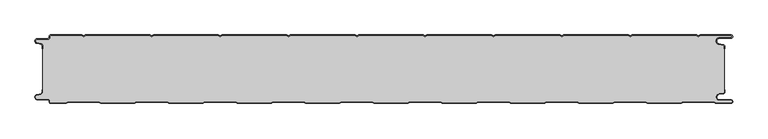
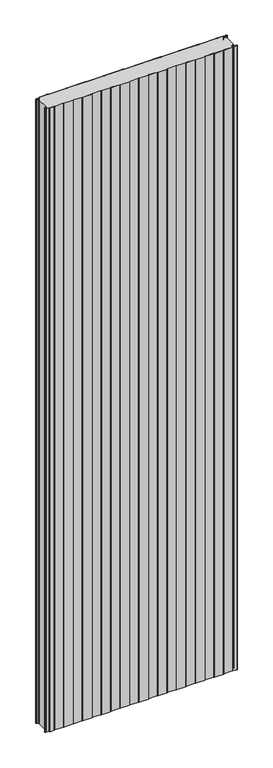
"""IFC4 building model written with IfcOpenShell, lengths in millimetres: plate geometry, PMH_Curtain-PaneL-Standard : ACH_PMH_Stone-wool-Panel_100M."""

from ifc_helpers import new_model, si_unit, point, frame_2d, origin, origin_with_axes, place, context, project, spatial, polyline, circle_curve, trimmed, segment, composite_curve, outline, extrude, source, transform, mapped, element, save


def plate_00faa93f(model_context):
    return source(origin(), model_context, "Body", "SweptSolid", [
        extrude(outline(composite_curve([segment(trimmed(circle_curve(frame_2d((-502.0, -15.878557)), 2.0), [point((-500.0, -15.878557))], [point((-501.5500978, -13.9298169))], True, "CARTESIAN"), True, "CONTINUOUS"), segment(polyline([(-501.5500978, -13.9298169), (-507.7098239, -12.507732)]), True, "CONTINUOUS"), segment(trimmed(circle_curve(frame_2d((-506.9, -9.0)), 3.6), [point((-507.7098239, -12.507732))], [point((-506.9, -5.4))], False, "CARTESIAN"), True, "CONTINUOUS"), segment(polyline([(-506.9, -5.4), (-491.4, -5.4)]), True, "CONTINUOUS"), segment(trimmed(circle_curve(frame_2d((-491.4, -3.4)), 2.0), [point((-491.4, -5.4))], [point((-489.4, -3.4))], True, "CARTESIAN"), True, "CONTINUOUS"), segment(polyline([(-489.4, -3.4), (-489.4, -2.0)]), True, "CONTINUOUS"), segment(trimmed(circle_curve(frame_2d((-487.4, -2.0)), 2.0), [point((-489.4, -2.0))], [point((-487.4, 0.0))], False, "CARTESIAN"), True, "CONTINUOUS"), segment(polyline([(-487.4, 0.0), (-442.0999995, 0.0), (-439.4, -1.5588455), (-436.7000005, 0.0), (-342.0999995, 0.0), (-339.4, -1.5588455), (-336.7000005, 0.0), (-242.0999995, 0.0), (-239.4, -1.5588455), (-236.7000005, 0.0), (-142.0999995, 0.0), (-139.4, -1.5588455), (-136.7000005, 0.0), (-42.0999995, 0.0), (-39.4, -1.5588455), (-36.7000005, 0.0), (57.9000005, 0.0), (60.6, -1.5588455), (63.2999995, 0.0), (157.9000005, 0.0), (160.6, -1.5588455), (163.2999995, 0.0), (257.9000005, 0.0), (260.6, -1.5588455), (263.2999995, 0.0), (357.9000005, 0.0), (360.6, -1.5588455), (363.2999995, 0.0), (457.9000005, 0.0), (460.6, -1.5588455), (463.2999995, 0.0), (508.1, 0.0)]), True, "CONTINUOUS"), segment(trimmed(circle_curve(frame_2d((508.1, -2.5)), 2.5), [point((508.1, 0.0))], [point((508.1, -5.0))], False, "CARTESIAN"), True, "CONTINUOUS"), segment(polyline([(508.1, -5.0), (491.1, -5.0)]), True, "CONTINUOUS"), segment(trimmed(circle_curve(frame_2d((491.1, -9.0)), 4.0), [point((491.1, -5.0))], [point((490.405407, -12.939231))], True, "CARTESIAN"), True, "CONTINUOUS"), segment(polyline([(490.405407, -12.939231), (496.8514855, -14.0758491)]), True, "CONTINUOUS"), segment(trimmed(circle_curve(frame_2d((496.4, -16.6363492)), 2.6), [point((496.8514855, -14.0758491))], [point((499.0, -16.6363492))], False, "CARTESIAN"), True, "CONTINUOUS"), segment(polyline([(499.0, -16.6363492), (499.0, -20.0), (498.2, -20.0), (498.2, -16.6363492)]), True, "CONTINUOUS"), segment(trimmed(circle_curve(frame_2d((496.4, -16.6363492)), 1.8), [point((498.2, -16.6363492))], [point((496.7125669, -14.8636953))], True, "CARTESIAN"), True, "CONTINUOUS"), segment(polyline([(496.7125669, -14.8636953), (490.2664884, -13.7270772)]), True, "CONTINUOUS"), segment(trimmed(circle_curve(frame_2d((491.1, -9.0)), 4.8), [point((490.2664884, -13.7270772))], [point((491.1, -4.2))], False, "CARTESIAN"), True, "CONTINUOUS"), segment(polyline([(491.1, -4.2), (508.1, -4.2)]), True, "CONTINUOUS"), segment(trimmed(circle_curve(frame_2d((508.1, -2.5)), 1.7), [point((508.1, -4.2))], [point((508.1, -0.8))], True, "CARTESIAN"), True, "CONTINUOUS"), segment(polyline([(508.1, -0.8), (463.5143588, -0.8), (460.6, -2.482606), (457.6856412, -0.8), (363.5143588, -0.8), (360.6, -2.482606), (357.6856412, -0.8), (263.5143588, -0.8), (260.6, -2.482606), (257.6856412, -0.8), (163.5143588, -0.8), (160.6, -2.482606), (157.6856412, -0.8), (63.5143588, -0.8), (60.6, -2.482606), (57.6856412, -0.8), (-36.4856412, -0.8), (-39.4, -2.482606), (-42.3143588, -0.8), (-136.4856412, -0.8), (-139.4, -2.482606), (-142.3143588, -0.8), (-236.4856412, -0.8), (-239.4, -2.482606), (-242.3143588, -0.8), (-336.4856412, -0.8), (-339.4, -2.482606), (-342.3143588, -0.8), (-436.4856412, -0.8), (-439.4, -2.482606), (-442.3143588, -0.8), (-487.4, -0.8)]), True, "CONTINUOUS"), segment(trimmed(circle_curve(frame_2d((-487.4, -2.0)), 1.2), [point((-487.4, -0.8))], [point((-488.6, -2.0))], True, "CARTESIAN"), True, "CONTINUOUS"), segment(polyline([(-488.6, -2.0), (-488.6, -3.4)]), True, "CONTINUOUS"), segment(trimmed(circle_curve(frame_2d((-491.4, -3.4)), 2.8), [point((-488.6, -3.4))], [point((-491.4, -6.2))], False, "CARTESIAN"), True, "CONTINUOUS"), segment(polyline([(-491.4, -6.2), (-506.9, -6.2)]), True, "CONTINUOUS"), segment(trimmed(circle_curve(frame_2d((-506.9, -9.0)), 2.8), [point((-506.9, -6.2))], [point((-507.529863, -11.7282362))], True, "CARTESIAN"), True, "CONTINUOUS"), segment(polyline([(-507.529863, -11.7282362), (-501.370137, -13.150321)]), True, "CONTINUOUS"), segment(trimmed(circle_curve(frame_2d((-502.0, -15.878557)), 2.8), [point((-501.370137, -13.150321))], [point((-499.2, -15.878557))], False, "CARTESIAN"), True, "CONTINUOUS"), segment(polyline([(-499.2, -15.878557), (-499.2, -20.0), (-500.0, -20.0), (-500.0, -15.878557)]), True, "CONTINUOUS")], self_intersect=False)), origin_with_axes(), (0.0, 0.0, 1.0), 3500.0),
        extrude(outline(composite_curve([segment(polyline([(-499.2, -84.121443), (-499.2, -15.8785573)]), True, "CONTINUOUS"), segment(trimmed(circle_curve(frame_2d((-502.0, -15.8785573)), 2.8), [point((-499.2, -15.8785573))], [point((-501.370137, -13.1503212))], True, "CARTESIAN"), True, "CONTINUOUS"), segment(polyline([(-501.370137, -13.1503212), (-507.5298631, -11.7282362)]), True, "CONTINUOUS"), segment(trimmed(circle_curve(frame_2d((-506.9, -9.0)), 2.8), [point((-507.5298631, -11.7282362))], [point((-506.9, -6.2))], False, "CARTESIAN"), True, "CONTINUOUS"), segment(polyline([(-506.9, -6.2), (-491.4000001, -6.2)]), True, "CONTINUOUS"), segment(trimmed(circle_curve(frame_2d((-491.4000001, -3.4)), 2.8), [point((-491.4000001, -6.2))], [point((-488.6000001, -3.4))], True, "CARTESIAN"), True, "CONTINUOUS"), segment(polyline([(-488.6000001, -3.4), (-488.6000001, -2.0)]), True, "CONTINUOUS"), segment(trimmed(circle_curve(frame_2d((-487.4000001, -2.0)), 1.2), [point((-488.6000001, -2.0))], [point((-487.4000001, -0.8))], False, "CARTESIAN"), True, "CONTINUOUS"), segment(polyline([(-487.4000001, -0.8), (-442.3143589, -0.8), (-439.4000001, -2.482606), (-436.4856412, -0.8), (-342.3143589, -0.8), (-339.4000001, -2.482606), (-336.4856412, -0.8), (-242.3143589, -0.8), (-239.4000001, -2.482606), (-236.4856412, -0.8), (-142.3143589, -0.8), (-139.4000001, -2.482606), (-136.4856412, -0.8), (-42.3143589, -0.8), (-39.4000001, -2.482606), (-36.4856412, -0.8), (57.6856411, -0.8), (60.5999999, -2.482606), (63.5143588, -0.8), (157.6856411, -0.8), (160.5999999, -2.482606), (163.5143588, -0.8), (257.6856411, -0.8), (260.5999999, -2.482606), (263.5143588, -0.8), (357.6856411, -0.8), (360.5999999, -2.482606), (363.5143588, -0.8), (457.6856411, -0.8), (460.5999999, -2.482606), (463.5143587, -0.8), (508.1, -0.8)]), True, "CONTINUOUS"), segment(trimmed(circle_curve(frame_2d((508.1, -2.5)), 1.7), [point((508.1, -0.8))], [point((508.1, -4.2))], False, "CARTESIAN"), True, "CONTINUOUS"), segment(polyline([(508.1, -4.2), (491.1, -4.2)]), True, "CONTINUOUS"), segment(trimmed(circle_curve(frame_2d((491.1, -9.0)), 4.8), [point((491.1, -4.2))], [point((490.2664883, -13.7270771))], True, "CARTESIAN"), True, "CONTINUOUS"), segment(polyline([(490.2664883, -13.7270771), (496.7125668, -14.8636953)]), True, "CONTINUOUS"), segment(trimmed(circle_curve(frame_2d((496.4, -16.6363492)), 1.8), [point((496.7125668, -14.8636953))], [point((498.2, -16.6363492))], False, "CARTESIAN"), True, "CONTINUOUS"), segment(polyline([(498.2, -16.6363492), (498.2, -83.363652)]), True, "CONTINUOUS"), segment(trimmed(circle_curve(frame_2d((496.4, -83.363652)), 1.8), [point((498.2, -83.363652))], [point((496.7125666, -85.1363059))], False, "CARTESIAN"), True, "CONTINUOUS"), segment(polyline([(496.7125666, -85.1363059), (490.266489, -86.272923)]), True, "CONTINUOUS"), segment(trimmed(circle_curve(frame_2d((491.1, -91.0000002)), 4.7999999), [point((490.266489, -86.272923))], [point((491.1, -95.8000001))], True, "CARTESIAN"), True, "CONTINUOUS"), segment(polyline([(491.1, -95.8000001), (508.1, -95.8000001)]), True, "CONTINUOUS"), segment(trimmed(circle_curve(frame_2d((508.1, -97.5)), 1.7), [point((508.1, -95.8000001))], [point((508.1, -99.2))], False, "CARTESIAN"), True, "CONTINUOUS"), segment(polyline([(508.1, -99.2), (485.8105122, -99.2), (483.2124346, -97.7), (437.9837184, -97.7), (435.3856408, -99.2), (385.8105122, -99.2), (383.2124346, -97.7), (337.9837184, -97.7), (335.3856408, -99.2), (285.8105122, -99.2), (283.2124346, -97.7), (237.9837184, -97.7), (235.3856408, -99.2), (185.8105122, -99.2), (183.2124346, -97.7), (137.9837184, -97.7), (135.3856408, -99.2), (85.8105122, -99.2), (83.2124346, -97.7), (37.9837184, -97.7), (35.3856408, -99.2), (-14.1894878, -99.2), (-16.7875654, -97.7), (-62.0162816, -97.7), (-64.6143592, -99.2), (-114.1894878, -99.2), (-116.7875654, -97.7), (-162.0162816, -97.7), (-164.6143592, -99.2), (-214.1894878, -99.2), (-216.7875654, -97.7), (-262.0162816, -97.7), (-264.6143592, -99.2), (-314.1894878, -99.2), (-316.7875654, -97.7), (-362.0162816, -97.7), (-364.6143592, -99.2), (-414.1894878, -99.2), (-416.7875654, -97.7), (-462.0162816, -97.7), (-464.6143592, -99.2), (-487.4, -99.2)]), True, "CONTINUOUS"), segment(trimmed(circle_curve(frame_2d((-487.4, -98.0)), 1.2), [point((-487.4, -99.2))], [point((-488.6, -98.0))], False, "CARTESIAN"), True, "CONTINUOUS"), segment(polyline([(-488.6, -98.0), (-488.6, -96.5999998)]), True, "CONTINUOUS"), segment(trimmed(circle_curve(frame_2d((-491.4, -96.5999998)), 2.8), [point((-488.6, -96.5999998))], [point((-491.4, -93.7999998))], True, "CARTESIAN"), True, "CONTINUOUS"), segment(polyline([(-491.4, -93.7999998), (-506.9, -93.7999998)]), True, "CONTINUOUS"), segment(trimmed(circle_curve(frame_2d((-506.9, -91.0)), 2.7999998), [point((-506.9, -93.7999998))], [point((-507.529863, -88.271764))], False, "CARTESIAN"), True, "CONTINUOUS"), segment(polyline([(-507.529863, -88.271764), (-501.370137, -86.8496792)]), True, "CONTINUOUS"), segment(trimmed(circle_curve(frame_2d((-502.0, -84.121443)), 2.8), [point((-501.370137, -86.8496792))], [point((-499.2, -84.121443))], True, "CARTESIAN"), True, "CONTINUOUS")], self_intersect=False)), origin_with_axes(), (0.0, 0.0, 1.0), 3500.0),
        extrude(outline(composite_curve([segment(trimmed(circle_curve(frame_2d((-487.4, -98.0)), 2.0), [point((-487.4, -100.0))], [point((-489.4, -98.0))], False, "CARTESIAN"), True, "CONTINUOUS"), segment(polyline([(-489.4, -98.0), (-489.4, -96.6)]), True, "CONTINUOUS"), segment(trimmed(circle_curve(frame_2d((-491.4, -96.6)), 2.0), [point((-489.4, -96.6))], [point((-491.4, -94.6))], True, "CARTESIAN"), True, "CONTINUOUS"), segment(polyline([(-491.4, -94.6), (-506.9, -94.6)]), True, "CONTINUOUS"), segment(trimmed(circle_curve(frame_2d((-506.9, -91.0)), 3.6), [point((-506.9, -94.6))], [point((-507.7098239, -87.4922678))], False, "CARTESIAN"), True, "CONTINUOUS"), segment(polyline([(-507.7098239, -87.4922678), (-501.5500979, -86.070183)]), True, "CONTINUOUS"), segment(trimmed(circle_curve(frame_2d((-502.0, -84.121443)), 2.0), [point((-501.5500979, -86.070183))], [point((-500.0, -84.121443))], True, "CARTESIAN"), True, "CONTINUOUS"), segment(polyline([(-500.0, -84.121443), (-500.0, -80.0), (-499.2, -80.0), (-499.2, -84.121443)]), True, "CONTINUOUS"), segment(trimmed(circle_curve(frame_2d((-502.0, -84.121443)), 2.8), [point((-499.2, -84.121443))], [point((-501.370137, -86.8496792))], False, "CARTESIAN"), True, "CONTINUOUS"), segment(polyline([(-501.370137, -86.8496792), (-507.529863, -88.271764)]), True, "CONTINUOUS"), segment(trimmed(circle_curve(frame_2d((-506.9, -91.0)), 2.8), [point((-507.529863, -88.271764))], [point((-506.9, -93.8))], True, "CARTESIAN"), True, "CONTINUOUS"), segment(polyline([(-506.9, -93.8), (-491.4, -93.8)]), True, "CONTINUOUS"), segment(trimmed(circle_curve(frame_2d((-491.4, -96.6)), 2.8), [point((-491.4, -93.8))], [point((-488.6, -96.6))], False, "CARTESIAN"), True, "CONTINUOUS"), segment(polyline([(-488.6, -96.6), (-488.6, -98.0)]), True, "CONTINUOUS"), segment(trimmed(circle_curve(frame_2d((-487.4, -98.0)), 1.2), [point((-488.6, -98.0))], [point((-487.4, -99.2))], True, "CARTESIAN"), True, "CONTINUOUS"), segment(polyline([(-487.4, -99.2), (-464.6143592, -99.2), (-462.0162816, -97.7), (-416.7875654, -97.7), (-414.1894878, -99.2), (-364.6143592, -99.2), (-362.0162816, -97.7), (-316.7875654, -97.7), (-314.1894878, -99.2), (-264.6143592, -99.2), (-262.0162816, -97.7), (-216.7875654, -97.7), (-214.1894878, -99.2), (-164.6143592, -99.2), (-162.0162816, -97.7), (-116.7875654, -97.7), (-114.1894878, -99.2), (-64.6143592, -99.2), (-62.0162816, -97.7), (-16.7875654, -97.7), (-14.1894878, -99.2), (35.3856408, -99.2), (37.9837184, -97.7), (83.2124346, -97.7), (85.8105122, -99.2), (135.3856408, -99.2), (137.9837184, -97.7), (183.2124346, -97.7), (185.8105122, -99.2), (235.3856408, -99.2), (237.9837184, -97.7), (283.2124346, -97.7), (285.8105122, -99.2), (335.3856408, -99.2), (337.9837184, -97.7), (383.2124346, -97.7), (385.8105122, -99.2), (435.3856408, -99.2), (437.9837184, -97.7), (483.2124346, -97.7), (485.8105122, -99.2), (508.1, -99.2)]), True, "CONTINUOUS"), segment(trimmed(circle_curve(frame_2d((508.1, -97.5)), 1.7), [point((508.1, -99.2))], [point((508.1, -95.8))], True, "CARTESIAN"), True, "CONTINUOUS"), segment(polyline([(508.1, -95.8), (491.1, -95.8)]), True, "CONTINUOUS"), segment(trimmed(circle_curve(frame_2d((491.1, -91.0)), 4.8), [point((491.1, -95.8))], [point((490.266489, -86.2729227))], False, "CARTESIAN"), True, "CONTINUOUS"), segment(polyline([(490.266489, -86.2729227), (496.7125666, -85.1363058)]), True, "CONTINUOUS"), segment(trimmed(circle_curve(frame_2d((496.4, -83.363652)), 1.8), [point((496.7125666, -85.1363058))], [point((498.2, -83.363652))], True, "CARTESIAN"), True, "CONTINUOUS"), segment(polyline([(498.2, -83.363652), (498.2, -80.0), (499.0, -80.0), (499.0, -83.363652)]), True, "CONTINUOUS"), segment(trimmed(circle_curve(frame_2d((496.4, -83.363652)), 2.6), [point((499.0, -83.363652))], [point((496.8514851, -85.9241522))], False, "CARTESIAN"), True, "CONTINUOUS"), segment(polyline([(496.8514851, -85.9241522), (490.4054075, -87.0607691)]), True, "CONTINUOUS"), segment(trimmed(circle_curve(frame_2d((491.1, -91.0)), 4.0), [point((490.4054075, -87.0607691))], [point((491.1, -95.0))], True, "CARTESIAN"), True, "CONTINUOUS"), segment(polyline([(491.1, -95.0), (508.1, -95.0)]), True, "CONTINUOUS"), segment(trimmed(circle_curve(frame_2d((508.1, -97.5)), 2.5), [point((508.1, -95.0))], [point((508.1, -100.0))], False, "CARTESIAN"), True, "CONTINUOUS"), segment(polyline([(508.1, -100.0), (485.5961529, -100.0), (482.9980753, -98.5), (438.1980777, -98.5), (435.6000001, -100.0), (385.5961529, -100.0), (382.9980753, -98.5), (338.1980777, -98.5), (335.6000001, -100.0), (285.5961529, -100.0), (282.9980753, -98.5), (238.1980777, -98.5), (235.6000001, -100.0), (185.5961529, -100.0), (182.9980753, -98.5), (138.1980777, -98.5), (135.6000001, -100.0), (85.5961529, -100.0), (82.9980753, -98.5), (38.1980777, -98.5), (35.6000001, -100.0), (-14.4038471, -100.0), (-17.0019247, -98.5), (-61.8019223, -98.5), (-64.3999999, -100.0), (-114.4038471, -100.0), (-117.0019247, -98.5), (-161.8019223, -98.5), (-164.3999999, -100.0), (-214.4038471, -100.0), (-217.0019247, -98.5), (-261.8019223, -98.5), (-264.3999999, -100.0), (-314.4038471, -100.0), (-317.0019247, -98.5), (-361.8019223, -98.5), (-364.3999999, -100.0), (-414.4038471, -100.0), (-417.0019247, -98.5), (-461.8019223, -98.5), (-464.3999999, -100.0), (-487.4, -100.0)]), True, "CONTINUOUS")], self_intersect=False)), origin_with_axes(), (0.0, 0.0, 1.0), 3500.0),
    ])


if __name__ == "__main__":
    model = new_model("IFC4")
    model_context = context("Model", 3, world=origin())
    ifc_project = project(units=[si_unit("LENGTHUNIT", "METRE", prefix="MILLI")], contexts=[model_context])
    site = spatial("IfcSite", under=ifc_project)
    building = spatial("IfcBuilding", under=site)
    placement = place(None, origin())
    plate_shape = plate_00faa93f(model_context)
    element("IfcPlate", 1, ObjectType="PMH_Curtain-PaneL-Standard : ACH_PMH_Stone-wool-Panel_100M", at=placement, inside=building, context=model_context, shape_type="MappedRepresentation", body=[
        mapped(plate_shape, transform((0.0, 0.0, 0.0), x_axis=(1.0, 0.0, 0.0), y_axis=(0.0, 1.0, 0.0), z_axis=(0.0, 0.0, 1.0))),
    ])
    save(model, "model.ifc")
